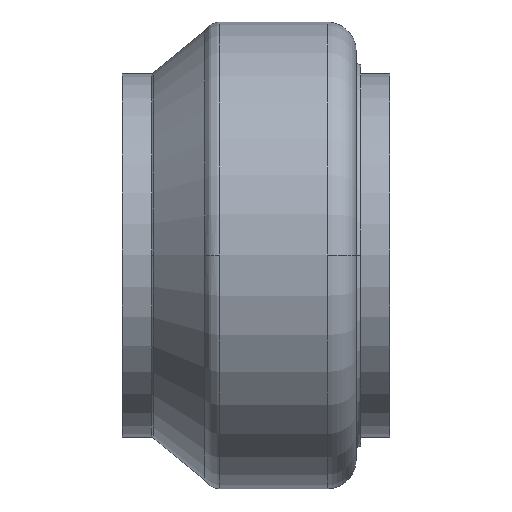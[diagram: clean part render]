
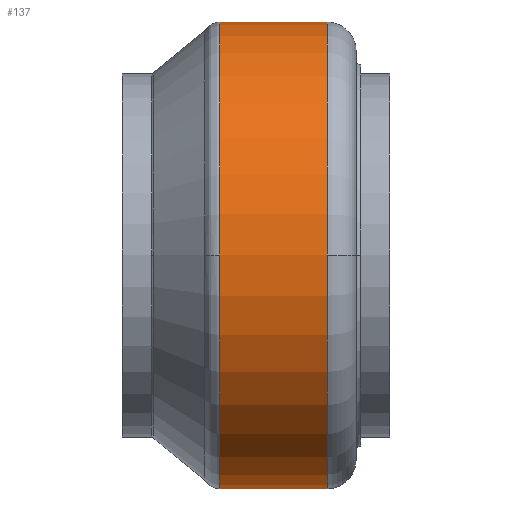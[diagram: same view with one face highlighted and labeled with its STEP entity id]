
A CAD part, top view. The second image highlights one B-rep face of the part: STEP entity #137.
In plain terms, the highlighted cylindrical face has radius 200.5 mm (diameter 401 mm), a partial arc.
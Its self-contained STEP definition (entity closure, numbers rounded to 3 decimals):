
#137=ADVANCED_FACE('',(#371),#372,.T.);
#371=FACE_OUTER_BOUND('',#737,.T.);
#372=CYLINDRICAL_SURFACE('',#738,200.5);
#737=EDGE_LOOP('',(#1113,#1114,#1115,#1116,#1117,#1118,#1119,#1120));
#738=AXIS2_PLACEMENT_3D('',#1121,#1122,#1123);
#1113=ORIENTED_EDGE('',*,*,#2128,.F.);
#1114=ORIENTED_EDGE('',*,*,#2129,.T.);
#1115=ORIENTED_EDGE('',*,*,#2130,.T.);
#1116=ORIENTED_EDGE('',*,*,#2131,.F.);
#1117=ORIENTED_EDGE('',*,*,#2132,.T.);
#1118=ORIENTED_EDGE('',*,*,#2133,.F.);
#1119=ORIENTED_EDGE('',*,*,#2134,.F.);
#1120=ORIENTED_EDGE('',*,*,#2124,.F.);
#1121=CARTESIAN_POINT('',(15.0,0.0,0.0));
#1122=DIRECTION('',(-1.0,0.0,0.0));
#1123=DIRECTION('',(0.0,1.0,0.0));
#2124=EDGE_CURVE('',#2538,#2540,#2541,.T.);
#2128=EDGE_CURVE('',#2546,#2538,#2547,.T.);
#2129=EDGE_CURVE('',#2546,#2548,#2549,.T.);
#2130=EDGE_CURVE('',#2548,#2550,#2551,.T.);
#2131=EDGE_CURVE('',#2552,#2550,#2553,.T.);
#2132=EDGE_CURVE('',#2552,#2554,#2555,.T.);
#2133=EDGE_CURVE('',#2556,#2554,#2557,.T.);
#2134=EDGE_CURVE('',#2540,#2556,#2558,.T.);
#2538=VERTEX_POINT('',#3144);
#2540=VERTEX_POINT('',#3146);
#2541=CIRCLE('',#3147,200.5);
#2546=VERTEX_POINT('',#3152);
#2547=LINE('',#3153,#3154);
#2548=VERTEX_POINT('',#3155);
#2549=CIRCLE('',#3156,200.5);
#2550=VERTEX_POINT('',#3157);
#2551=CIRCLE('',#3158,200.5);
#2552=VERTEX_POINT('',#3159);
#2553=LINE('',#3160,#3161);
#2554=VERTEX_POINT('',#3162);
#2555=B_SPLINE_CURVE_WITH_KNOTS('',3,(#3163,#3164,#3165,#3166,#3167,#3168,#3169,#3170,#3171,#3172,#3173,#3174,#3175,#3176,#3177,#3178,#3179,#3180,#3181,#3182,#3183,#3184,#3185,#3186,#3187,#3188,#3189,#3190,#3191,#3192,#3193,#3194,#3195,#3196,#3197,#3198,#3199,#3200,#3201,#3202,#3203,#3204,#3205,#3206,#3207,#3208,#3209,#3210,#3211,#3212,#3213,#3214,#3215,#3216),.UNSPECIFIED.,.F.,.F.,(4,2,2,2,2,2,2,2,2,2,2,2,2,2,2,2,2,2,2,2,2,2,2,2,2,2,4),(0.001,0.002,0.002,0.002,0.002,0.002,0.002,0.002,0.002,0.003,0.003,0.003,0.003,0.003,0.003,0.003,0.003,0.003,0.003,0.004,0.004,0.004,0.004,0.004,0.004,0.004,0.004),.UNSPECIFIED.);
#2556=VERTEX_POINT('',#3217);
#2557=LINE('',#3218,#3219);
#2558=CIRCLE('',#3220,200.5);
#3144=CARTESIAN_POINT('',(61.0,200.5,0.0));
#3146=CARTESIAN_POINT('',(61.0,0.,200.5));
#3147=AXIS2_PLACEMENT_3D('',#4290,#4291,#4292);
#3152=CARTESIAN_POINT('',(-31.0,200.5,0.0));
#3153=CARTESIAN_POINT('',(15.0,200.5,0.));
#3154=VECTOR('',#4299,1.0);
#3155=CARTESIAN_POINT('',(-31.0,0.,200.5));
#3156=AXIS2_PLACEMENT_3D('',#4300,#4301,#4302);
#3157=CARTESIAN_POINT('',(-31.0,-200.5,0.));
#3158=AXIS2_PLACEMENT_3D('',#4303,#4304,#4305);
#3159=CARTESIAN_POINT('',(-0.001,-200.5,0.));
#3160=CARTESIAN_POINT('',(15.0,-200.5,0.));
#3161=VECTOR('',#4306,1.0);
#3162=CARTESIAN_POINT('',(0.001,-200.5,0.));
#3163=CARTESIAN_POINT('',(-0.001,-200.5,0.));
#3164=CARTESIAN_POINT('',(-0.001,-200.5,0.));
#3165=CARTESIAN_POINT('',(-0.001,-200.5,0.));
#3166=CARTESIAN_POINT('',(-0.001,-200.5,0.));
#3167=CARTESIAN_POINT('',(-0.001,-200.5,0.));
#3168=CARTESIAN_POINT('',(-0.001,-200.5,0.));
#3169=CARTESIAN_POINT('',(-0.001,-200.5,0.));
#3170=CARTESIAN_POINT('',(-0.001,-200.5,0.));
#3171=CARTESIAN_POINT('',(-0.001,-200.5,0.));
#3172=CARTESIAN_POINT('',(-0.001,-200.5,0.));
#3173=CARTESIAN_POINT('',(-0.001,-200.5,0.));
#3174=CARTESIAN_POINT('',(-0.001,-200.5,0.));
#3175=CARTESIAN_POINT('',(-0.001,-200.5,0.001));
#3176=CARTESIAN_POINT('',(-0.001,-200.5,0.001));
#3177=CARTESIAN_POINT('',(-0.001,-200.5,0.001));
#3178=CARTESIAN_POINT('',(-0.001,-200.5,0.001));
#3179=CARTESIAN_POINT('',(-0.001,-200.5,0.001));
#3180=CARTESIAN_POINT('',(-0.001,-200.5,0.001));
#3181=CARTESIAN_POINT('',(0.,-200.5,0.001));
#3182=CARTESIAN_POINT('',(0.,-200.5,0.001));
#3183=CARTESIAN_POINT('',(0.,-200.5,0.001));
#3184=CARTESIAN_POINT('',(0.,-200.5,0.001));
#3185=CARTESIAN_POINT('',(0.,-200.5,0.001));
#3186=CARTESIAN_POINT('',(0.,-200.5,0.001));
#3187=CARTESIAN_POINT('',(0.,-200.5,0.001));
#3188=CARTESIAN_POINT('',(0.,-200.5,0.001));
#3189=CARTESIAN_POINT('',(0.,-200.5,0.001));
#3190=CARTESIAN_POINT('',(0.,-200.5,0.001));
#3191=CARTESIAN_POINT('',(0.,-200.5,0.001));
#3192=CARTESIAN_POINT('',(0.,-200.5,0.001));
#3193=CARTESIAN_POINT('',(0.,-200.5,0.001));
#3194=CARTESIAN_POINT('',(0.,-200.5,0.001));
#3195=CARTESIAN_POINT('',(0.,-200.5,0.001));
#3196=CARTESIAN_POINT('',(0.,-200.5,0.001));
#3197=CARTESIAN_POINT('',(0.,-200.5,0.001));
#3198=CARTESIAN_POINT('',(0.,-200.5,0.001));
#3199=CARTESIAN_POINT('',(0.,-200.5,0.001));
#3200=CARTESIAN_POINT('',(0.,-200.5,0.001));
#3201=CARTESIAN_POINT('',(0.001,-200.5,0.001));
#3202=CARTESIAN_POINT('',(0.001,-200.5,0.001));
#3203=CARTESIAN_POINT('',(0.001,-200.5,0.001));
#3204=CARTESIAN_POINT('',(0.001,-200.5,0.001));
#3205=CARTESIAN_POINT('',(0.001,-200.5,0.001));
#3206=CARTESIAN_POINT('',(0.001,-200.5,0.001));
#3207=CARTESIAN_POINT('',(0.001,-200.5,0.001));
#3208=CARTESIAN_POINT('',(0.001,-200.5,0.001));
#3209=CARTESIAN_POINT('',(0.001,-200.5,0.001));
#3210=CARTESIAN_POINT('',(0.001,-200.5,0.001));
#3211=CARTESIAN_POINT('',(0.001,-200.5,0.));
#3212=CARTESIAN_POINT('',(0.001,-200.5,0.));
#3213=CARTESIAN_POINT('',(0.001,-200.5,0.));
#3214=CARTESIAN_POINT('',(0.001,-200.5,0.));
#3215=CARTESIAN_POINT('',(0.001,-200.5,0.));
#3216=CARTESIAN_POINT('',(0.001,-200.5,0.));
#3217=CARTESIAN_POINT('',(61.0,-200.5,0.));
#3218=CARTESIAN_POINT('',(15.0,-200.5,0.));
#3219=VECTOR('',#4307,1.0);
#3220=AXIS2_PLACEMENT_3D('',#4308,#4309,#4310);
#4290=CARTESIAN_POINT('',(61.0,0.0,0.0));
#4291=DIRECTION('',(1.0,0.0,0.0));
#4292=DIRECTION('',(0.0,1.0,0.0));
#4299=DIRECTION('',(1.0,0.0,0.0));
#4300=CARTESIAN_POINT('',(-31.0,0.0,0.0));
#4301=DIRECTION('',(1.0,0.0,0.0));
#4302=DIRECTION('',(0.0,1.0,0.0));
#4303=CARTESIAN_POINT('',(-31.0,0.0,0.0));
#4304=DIRECTION('',(1.0,0.0,0.0));
#4305=DIRECTION('',(0.0,1.0,0.0));
#4306=DIRECTION('',(-1.0,-0.0,-0.0));
#4307=DIRECTION('',(-1.0,-0.0,-0.0));
#4308=CARTESIAN_POINT('',(61.0,0.0,0.0));
#4309=DIRECTION('',(1.0,0.0,0.0));
#4310=DIRECTION('',(0.0,1.0,0.0));
